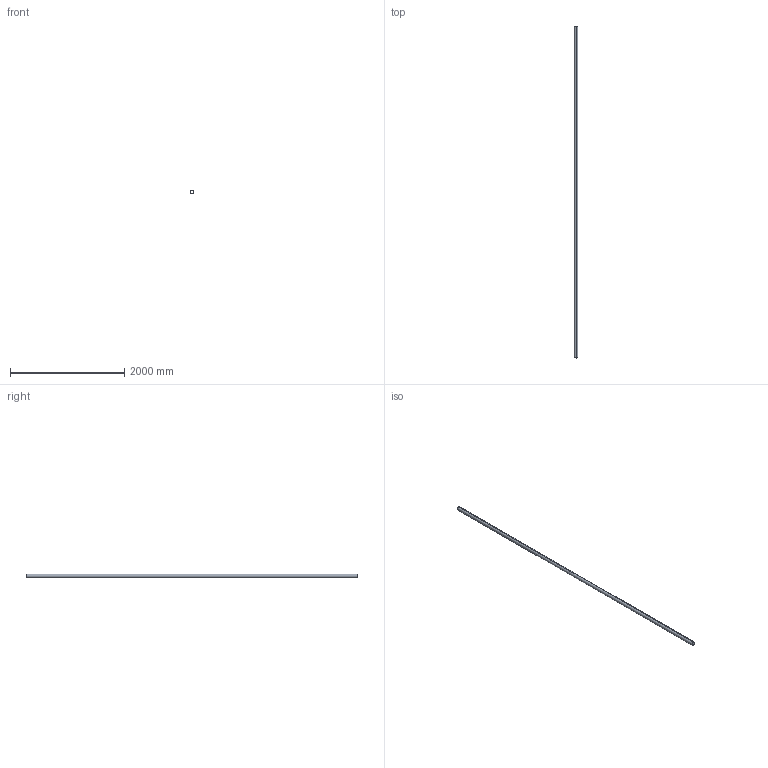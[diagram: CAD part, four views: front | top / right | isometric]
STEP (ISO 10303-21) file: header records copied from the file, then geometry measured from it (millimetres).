
FILE_DESCRIPTION(/* description */ (''),/* implementation_level */ '2;1');
FILE_NAME(/* name */ '2014 6000 00_step.stp',/* time_stamp */ '2025-06-20T15:07:07+08:00',/* author */ (''),/* organization */ (''),/* preprocessor_version */ 'ST-DEVELOPER v14',/* originating_system */ 'SIEMENS PLM Software NX 8.0',/* authorisation */ '');
FILE_SCHEMA (('CONFIG_CONTROL_DESIGN'));
Length unit declared in the file: millimetre
Products named in the file (1): 2014 6000 00_step
Bounding box: 67.6 x 5800 x 67.6 mm (x, y, z)
Volume: 2390626.3 mm3; surface area: 2391450.7 mm2
Topology: 1 solids, 1 shells, 6 faces, 12 edges, 8 vertices
Faces by surface type: cylinder 4, plane 2
Entity records: 252 total; most frequent: DIRECTION 34, CARTESIAN_POINT 27, ORIENTED_EDGE 24, AXIS2_PLACEMENT_3D 15, EDGE_CURVE 12, EDGE_LOOP 8, VERTEX_POINT 8, CIRCLE 8
